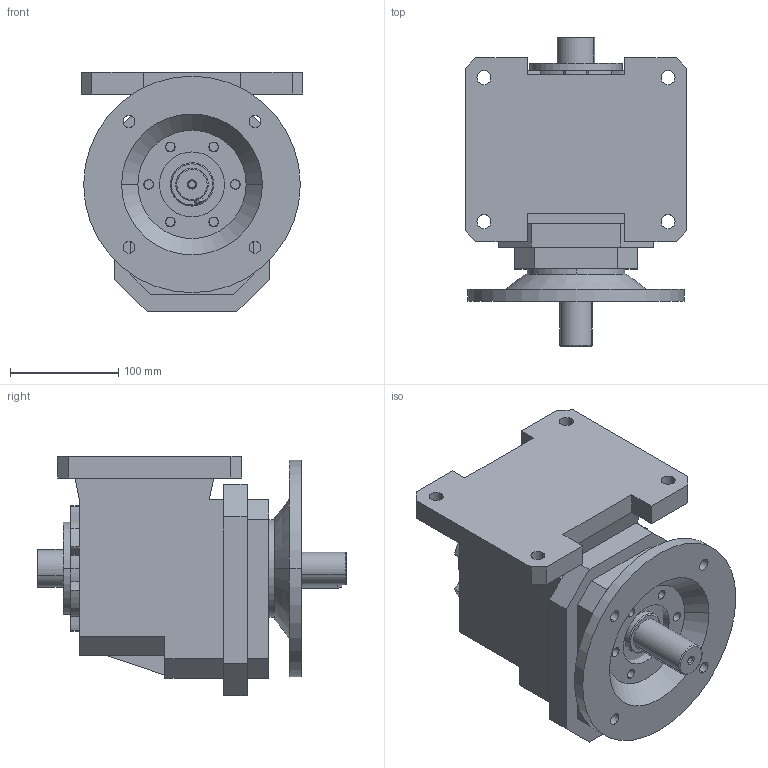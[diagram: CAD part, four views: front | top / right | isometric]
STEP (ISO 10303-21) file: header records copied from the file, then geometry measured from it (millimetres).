
FILE_DESCRIPTION (( 'STEP AP203' ), '1' );
FILE_NAME ('Red HG30 B5 24.STEP', '2019-07-16T07:08:12', ( '' ), ( '' ), 'SwSTEP 2.0', 'SolidWorks 2018', '' );
FILE_SCHEMA (( 'CONFIG_CONTROL_DESIGN' ));
Length unit declared in the file: millimetre
Products named in the file (4): Arbre 30 24; Red HG30 B5 24; Bride HG30 B5; HG30
Assembly tree (3 placements, depth 2):
  Red HG30 B5 24
    Bride HG30 B5
    HG30
    Arbre 30 24
Bounding box: 205 x 285 x 221 mm (x, y, z)
Volume: 4538925.4 mm3; surface area: 393734.7 mm2
Topology: 3 solids, 3 shells, 230 faces, 577 edges, 366 vertices
Faces by surface type: cylinder 98, plane 91, cone 20, bspline 12, torus 9
Entity records: 7392 total; most frequent: CARTESIAN_POINT 1411, DIRECTION 1196, ORIENTED_EDGE 1130, EDGE_CURVE 565, AXIS2_PLACEMENT_3D 439, VERTEX_POINT 366, VECTOR 318, LINE 318
